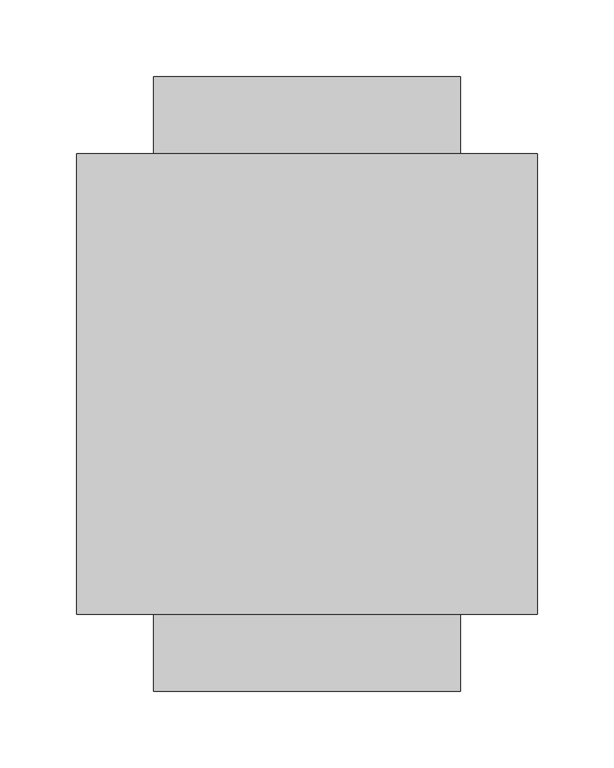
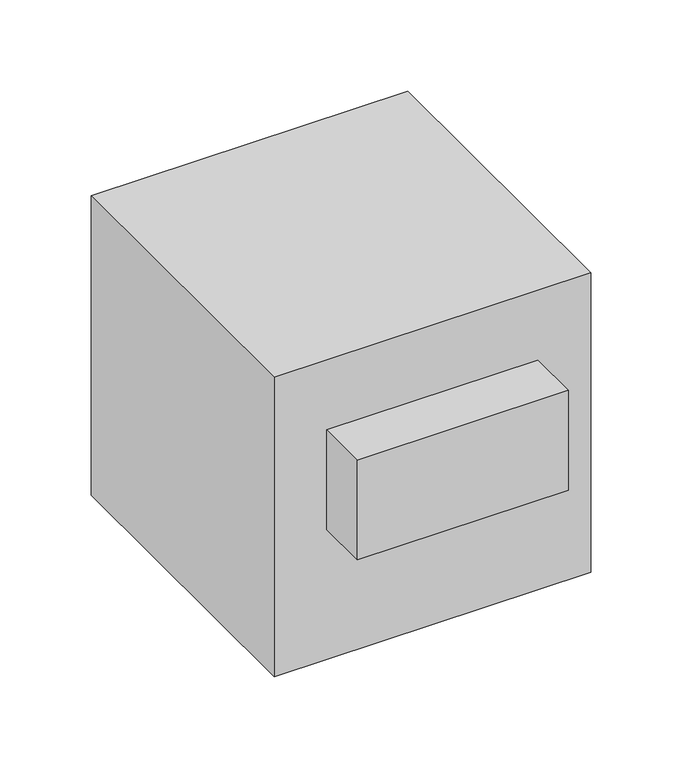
"""IFC4 building model written with IfcOpenShell, lengths in millimetres: duct fitting geometry, BL_КрестовинаВоздуховодов_Прямоугольная : BL_КрестовинаВоздуховодов_Прямоугольная."""

from ifc_helpers import new_model, si_unit, origin, place, context, project, spatial, faceted_brep, source, transform, mapped, element, save


def duct_fitting_7def25b7(model_context):
    return source(origin(), model_context, "Body", "Brep", [
        faceted_brep([(-150.0, 150.0, 150.0), (-150.0, 150.0, -150.0), (-150.0, -150.0, -150.0), (-150.0, -150.0, 150.0), (150.0, 150.0, 150.0), (150.0, 150.0, -150.0), (100.0, 150.0, -50.0), (100.0, 150.0, 50.0), (-100.0, 150.0, 50.0), (-100.0, 150.0, -50.0), (150.0, -150.0, -150.0), (150.0, -150.0, 150.0), (-100.0, -150.0, -20.0), (-100.0, -150.0, 80.0), (100.0, -150.0, 80.0), (100.0, -150.0, -20.0), (-100.0, -200.0, 80.0), (-100.0, -200.0, -20.0), (100.0, -200.0, -20.0), (100.0, -200.0, 80.0), (100.0, 200.0, 50.0), (100.0, 200.0, -50.0), (-100.0, 200.0, -50.0), (-100.0, 200.0, 50.0)], [[[0, 1, 2, 3]], [[1, 0, 4, 5], [6, 7, 8, 9]], [[2, 1, 5, 10]], [[3, 2, 10, 11], [12, 13, 14, 15]], [[0, 3, 11, 4]], [[4, 11, 10, 5]], [[16, 17, 18, 19]], [[17, 16, 13, 12]], [[18, 17, 12, 15]], [[19, 18, 15, 14]], [[20, 21, 22, 23]], [[21, 20, 7, 6]], [[22, 21, 6, 9]], [[23, 22, 9, 8]], [[16, 19, 14, 13]], [[20, 23, 8, 7]]]),
    ])


if __name__ == "__main__":
    model = new_model("IFC4")
    model_context = context("Model", 3, world=origin())
    ifc_project = project(units=[si_unit("LENGTHUNIT", "METRE", prefix="MILLI")], contexts=[model_context])
    site = spatial("IfcSite", under=ifc_project)
    building = spatial("IfcBuilding", under=site)
    placement = place(None, origin())
    duct_fitting_shape = duct_fitting_7def25b7(model_context)
    element("IfcDuctFitting", 1, ObjectType="BL_КрестовинаВоздуховодов_Прямоугольная : BL_КрестовинаВоздуховодов_Прямоугольная", at=placement, inside=building, context=model_context, shape_type="MappedRepresentation", body=[
        mapped(duct_fitting_shape, transform((0.0, 0.0, 0.0), x_axis=(1.0, 0.0, 0.0), y_axis=(0.0, 1.0, 0.0), z_axis=(0.0, 0.0, 1.0))),
    ])
    save(model, "model.ifc")
